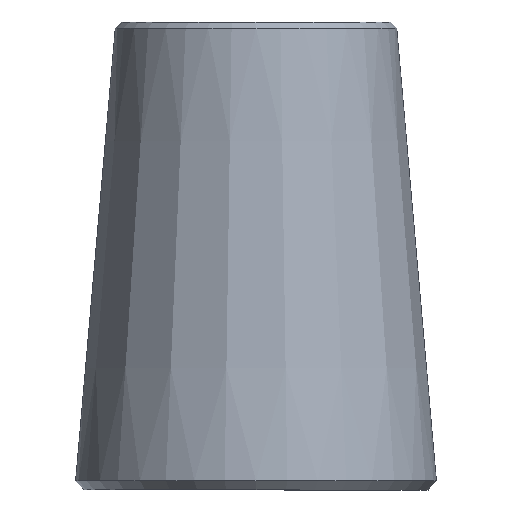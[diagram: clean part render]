
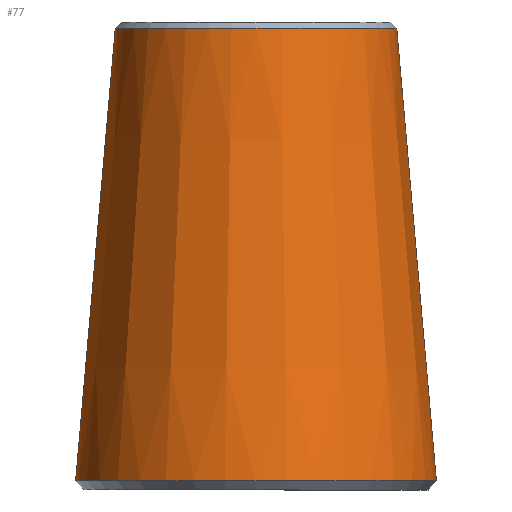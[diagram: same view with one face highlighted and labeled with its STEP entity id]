
A CAD part, left-side view. The second image highlights one B-rep face of the part: STEP entity #77.
In plain terms, the highlighted conical face has half-angle 5 degrees and reference radius 53.22 mm.
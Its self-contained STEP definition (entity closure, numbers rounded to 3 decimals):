
#20=FACE_BOUND('',#34,.T.);
#25=FACE_OUTER_BOUND('',#33,.T.);
#33=EDGE_LOOP('',(#63));
#34=EDGE_LOOP('',(#64));
#44=CIRCLE('',#87,59.739);
#45=CIRCLE('',#89,46.614);
#50=VERTEX_POINT('',#130);
#51=VERTEX_POINT('',#133);
#56=EDGE_CURVE('',#50,#50,#44,.T.);
#57=EDGE_CURVE('',#51,#51,#45,.T.);
#63=ORIENTED_EDGE('',*,*,#57,.F.);
#64=ORIENTED_EDGE('',*,*,#56,.F.);
#74=CONICAL_SURFACE('',#88,53.22,5.);
#77=ADVANCED_FACE('',(#25,#20),#74,.T.);
#87=AXIS2_PLACEMENT_3D('',#131,#104,#105);
#88=AXIS2_PLACEMENT_3D('',#132,#106,#107);
#89=AXIS2_PLACEMENT_3D('',#134,#108,#109);
#104=DIRECTION('center_axis',(0.,0.,
-1.));
#105=DIRECTION('ref_axis',(0.,1.,0.));
#106=DIRECTION('center_axis',(0.,0.,-1.));
#107=DIRECTION('ref_axis',(0.,-1.,0.));
#108=DIRECTION('center_axis',(0.,0.,
1.));
#109=DIRECTION('ref_axis',(0.,1.,0.));
#130=CARTESIAN_POINT('',(0.,-59.739,2.989));
#131=CARTESIAN_POINT('Origin',(0.,0.,
2.989));
#132=CARTESIAN_POINT('Origin',(0.,0.,77.5));
#133=CARTESIAN_POINT('',(0.,-46.614,153.008));
#134=CARTESIAN_POINT('Origin',(0.,0.,
153.008));
